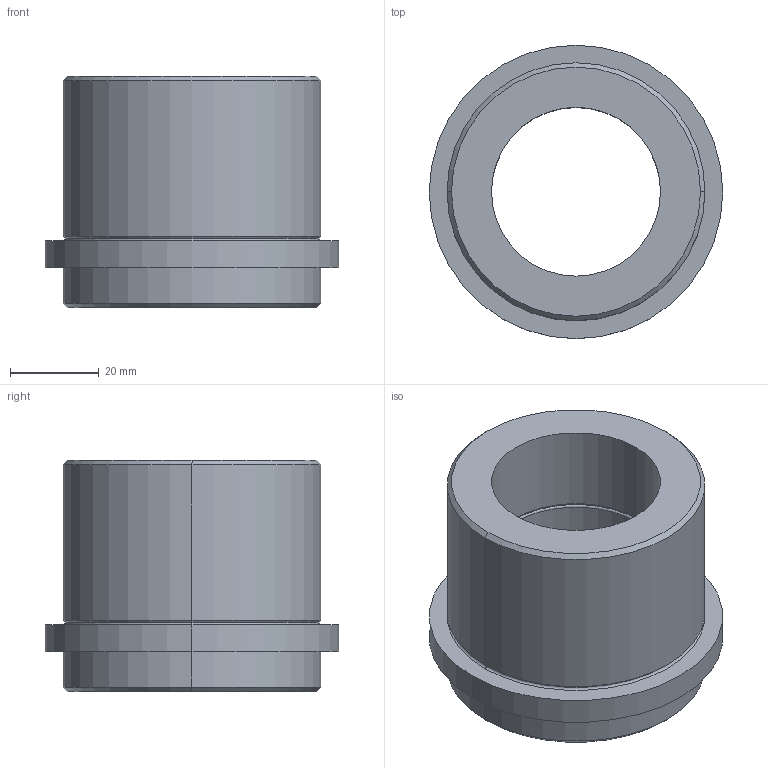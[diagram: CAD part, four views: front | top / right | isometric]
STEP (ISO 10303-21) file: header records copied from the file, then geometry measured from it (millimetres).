
FILE_DESCRIPTION (( 'STEP AP214' ), '1' );
FILE_NAME ('Casquillo SB500-38-52.STEP', '2018-11-26T13:01:30', ( '' ), ( '' ), 'SwSTEP 2.0', 'SolidWorks 2018', '' );
FILE_SCHEMA (( 'AUTOMOTIVE_DESIGN' ));
Length unit declared in the file: millimetre
Products named in the file (1): Casquillo SB500-38-52
Bounding box: 66 x 66 x 52 mm (x, y, z)
Volume: 82811.9 mm3; surface area: 20432.4 mm2
Topology: 1 solids, 1 shells, 32 faces, 64 edges, 36 vertices
Faces by surface type: torus 12, cylinder 12, cone 4, plane 4
Entity records: 874 total; most frequent: DIRECTION 178, CARTESIAN_POINT 133, ORIENTED_EDGE 128, AXIS2_PLACEMENT_3D 81, EDGE_CURVE 64, CIRCLE 48, EDGE_LOOP 36, VERTEX_POINT 36
